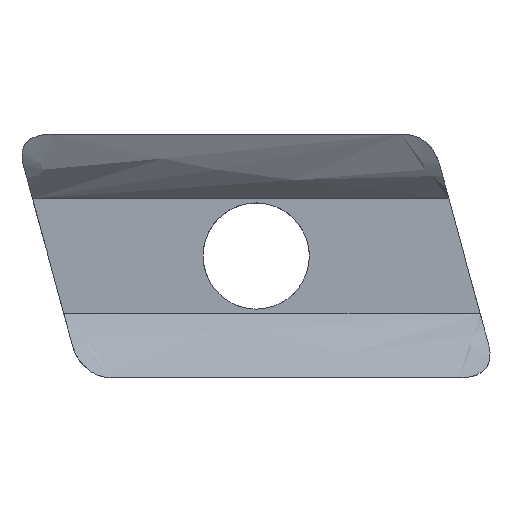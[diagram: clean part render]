
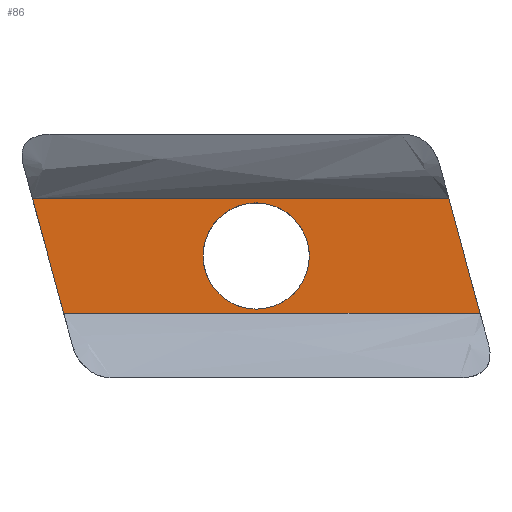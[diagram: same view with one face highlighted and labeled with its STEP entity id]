
A CAD part, top view. The second image highlights one B-rep face of the part: STEP entity #86.
In plain terms, the highlighted planar face has unit normal (0, 0, 1).
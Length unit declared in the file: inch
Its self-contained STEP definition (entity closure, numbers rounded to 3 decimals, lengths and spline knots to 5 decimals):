
#86=ADVANCED_FACE('',(#175,#176),#177,.T.);
#175=FACE_BOUND('',#1048,.T.);
#176=FACE_OUTER_BOUND('',#1049,.T.);
#177=PLANE('',#1050);
#1048=EDGE_LOOP('',(#1979,#1980,#1981,#1982));
#1049=EDGE_LOOP('',(#1983,#1984,#1985,#1986,#1987));
#1050=AXIS2_PLACEMENT_3D('',#1988,#1989,#1990);
#1979=ORIENTED_EDGE('',*,*,#2138,.T.);
#1980=ORIENTED_EDGE('',*,*,#2083,.T.);
#1981=ORIENTED_EDGE('',*,*,#2060,.T.);
#1982=ORIENTED_EDGE('',*,*,#2139,.T.);
#1983=ORIENTED_EDGE('',*,*,#2054,.F.);
#1984=ORIENTED_EDGE('',*,*,#2136,.T.);
#1985=ORIENTED_EDGE('',*,*,#2110,.F.);
#1986=ORIENTED_EDGE('',*,*,#2124,.T.);
#1987=ORIENTED_EDGE('',*,*,#2115,.T.);
#1988=CARTESIAN_POINT('',(-0.14909,0.203,0.0666));
#1989=DIRECTION('',(0.0,0.0,1.0));
#1990=DIRECTION('',(0.0,-1.0,0.0));
#2054=EDGE_CURVE('',#2159,#2160,#2161,.T.);
#2060=EDGE_CURVE('',#2170,#2171,#2172,.T.);
#2083=EDGE_CURVE('',#2209,#2170,#2210,.T.);
#2110=EDGE_CURVE('',#2252,#2242,#2254,.T.);
#2115=EDGE_CURVE('',#2259,#2160,#2260,.T.);
#2124=EDGE_CURVE('',#2252,#2259,#2273,.T.);
#2136=EDGE_CURVE('',#2159,#2242,#2287,.T.);
#2138=EDGE_CURVE('',#2289,#2209,#2290,.T.);
#2139=EDGE_CURVE('',#2171,#2289,#2291,.T.);
#2159=VERTEX_POINT('',#2374);
#2160=VERTEX_POINT('',#2375);
#2161=LINE('',#2376,#2377);
#2170=VERTEX_POINT('',#2402);
#2171=VERTEX_POINT('',#2403);
#2172=B_SPLINE_CURVE_WITH_KNOTS('',3,(#2404,#2405,#2406,#2407),.UNSPECIFIED.,.F.,.F.,(4,4),(-1.0,-0.0),.UNSPECIFIED.);
#2209=VERTEX_POINT('',#2731);
#2210=B_SPLINE_CURVE_WITH_KNOTS('',3,(#2732,#2733,#2734,#2735),.UNSPECIFIED.,.F.,.F.,(4,4),(-1.0,-0.0),.UNSPECIFIED.);
#2242=VERTEX_POINT('',#2822);
#2252=VERTEX_POINT('',#2858);
#2254=LINE('',#2863,#2864);
#2259=VERTEX_POINT('',#2871);
#2260=LINE('',#2872,#2873);
#2273=LINE('',#2927,#2928);
#2287=LINE('',#3010,#3011);
#2289=VERTEX_POINT('',#3013);
#2290=B_SPLINE_CURVE_WITH_KNOTS('',3,(#3014,#3015,#3016,#3017),.UNSPECIFIED.,.F.,.F.,(4,4),(-1.0,-0.0),.UNSPECIFIED.);
#2291=B_SPLINE_CURVE_WITH_KNOTS('',3,(#3018,#3019,#3020,#3021),.UNSPECIFIED.,.F.,.F.,(4,4),(-1.0,-0.0),.UNSPECIFIED.);
#2374=CARTESIAN_POINT('',(0.58847,0.203,0.0666));
#2375=CARTESIAN_POINT('',(0.61456,0.10727,0.0666));
#2376=CARTESIAN_POINT('',(0.56298,0.29655,0.0666));
#2377=VECTOR('',#3038,1.0);
#2402=CARTESIAN_POINT('',(0.15276,0.20299,0.0666));
#2403=CARTESIAN_POINT('',(0.24126,0.2915,0.0666));
#2404=CARTESIAN_POINT('',(0.15276,0.20299,0.0666));
#2405=CARTESIAN_POINT('',(0.15276,0.25187,0.0666));
#2406=CARTESIAN_POINT('',(0.19238,0.2915,0.0666));
#2407=CARTESIAN_POINT('',(0.24126,0.2915,0.0666));
#2731=CARTESIAN_POINT('',(0.24126,0.1145,0.0666));
#2732=CARTESIAN_POINT('',(0.24126,0.1145,0.0666));
#2733=CARTESIAN_POINT('',(0.19238,0.1145,0.0666));
#2734=CARTESIAN_POINT('',(0.15276,0.15411,0.0666));
#2735=CARTESIAN_POINT('',(0.15276,0.20299,0.0666));
#2822=CARTESIAN_POINT('',(0.56238,0.29872,0.0666));
#2858=CARTESIAN_POINT('',(-0.13162,0.29872,0.0666));
#2863=CARTESIAN_POINT('',(-0.14909,0.29872,0.0666));
#2864=VECTOR('',#3055,1.);
#2871=CARTESIAN_POINT('',(-0.07948,0.10727,0.0666));
#2872=CARTESIAN_POINT('',(-0.14909,0.10727,0.0666));
#2873=VECTOR('',#3058,1.);
#2927=CARTESIAN_POINT('',(-0.10705,0.20851,0.0666));
#2928=VECTOR('',#3061,1.);
#3010=CARTESIAN_POINT('',(0.5613,0.30268,0.0666));
#3011=VECTOR('',#3065,1.);
#3013=CARTESIAN_POINT('',(0.32976,0.20299,0.0666));
#3014=CARTESIAN_POINT('',(0.32976,0.20299,0.0666));
#3015=CARTESIAN_POINT('',(0.32976,0.15411,0.0666));
#3016=CARTESIAN_POINT('',(0.29013,0.1145,0.0666));
#3017=CARTESIAN_POINT('',(0.24126,0.1145,0.0666));
#3018=CARTESIAN_POINT('',(0.24126,0.2915,0.0666));
#3019=CARTESIAN_POINT('',(0.29013,0.2915,0.0666));
#3020=CARTESIAN_POINT('',(0.32976,0.25187,0.0666));
#3021=CARTESIAN_POINT('',(0.32976,0.20299,0.0666));
#3038=DIRECTION('',(0.263,-0.965,0.0));
#3055=DIRECTION('',(1.0,0.,0.0));
#3058=DIRECTION('',(1.0,0.,0.0));
#3061=DIRECTION('',(0.263,-0.965,0.0));
#3065=DIRECTION('',(-0.263,0.965,0.0));
